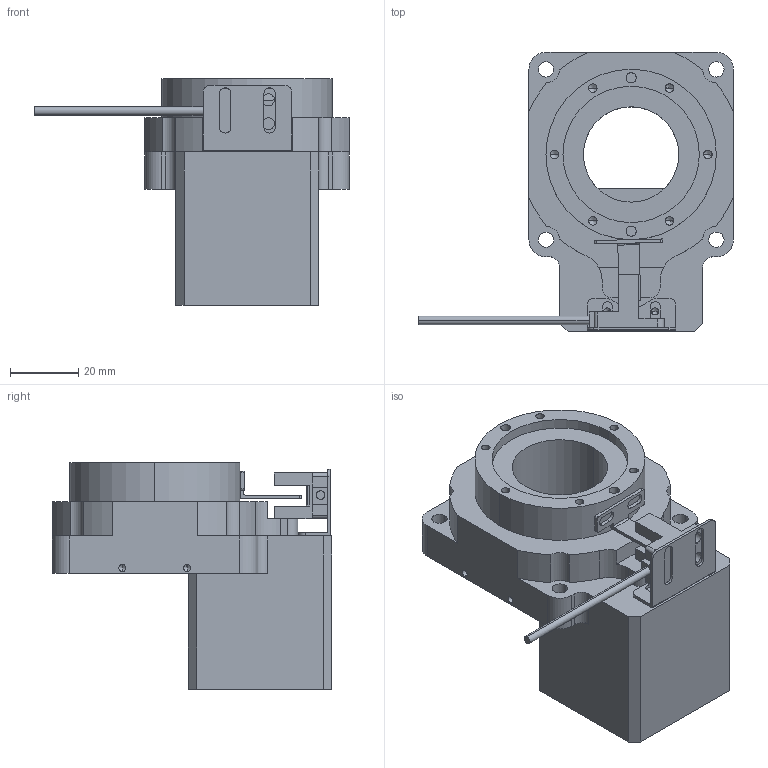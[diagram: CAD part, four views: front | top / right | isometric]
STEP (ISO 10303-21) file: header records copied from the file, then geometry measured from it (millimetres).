
FILE_DESCRIPTION (( 'STEP AP203' ), '1' );
FILE_NAME ('RTN60-10K-8-30-45-M3.STEP', '2024-05-21T07:06:10', ( '' ), ( '' ), 'SwSTEP 2.0', 'SolidWorks 2023', '' );
FILE_SCHEMA (( 'CONFIG_CONTROL_DESIGN' ));
Length unit declared in the file: millimetre
Products named in the file (1): RTN60-10K-8-30-45-M3
Bounding box: 92.35 x 81.9 x 66.5 mm (x, y, z)
Volume: 139731.4 mm3; surface area: 29290.9 mm2
Topology: 4 solids, 6 shells, 273 faces, 721 edges, 450 vertices
Faces by surface type: cylinder 120, plane 117, cone 36
Entity records: 8322 total; most frequent: DIRECTION 1477, CARTESIAN_POINT 1409, ORIENTED_EDGE 1370, EDGE_CURVE 685, AXIS2_PLACEMENT_3D 518, VERTEX_POINT 450, LINE 441, VECTOR 441
